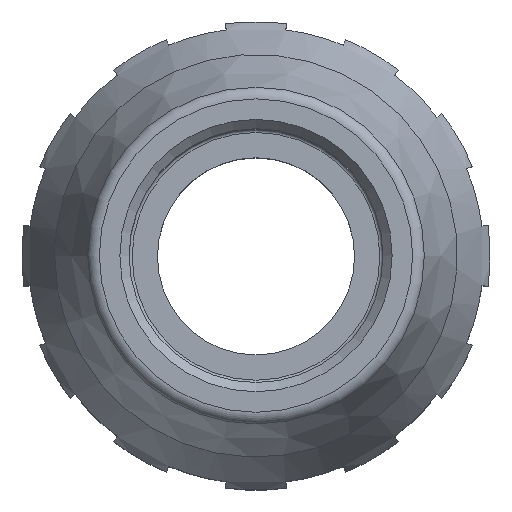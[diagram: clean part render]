
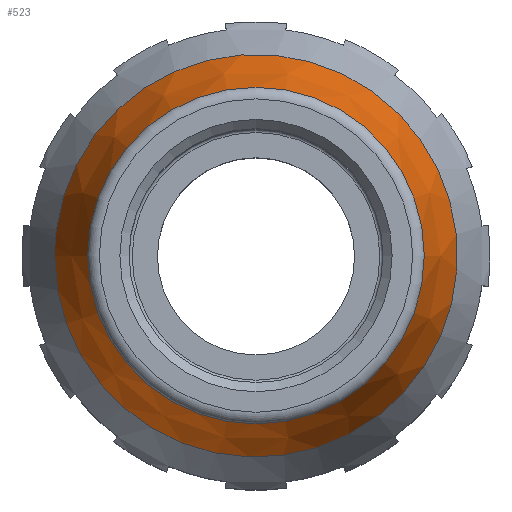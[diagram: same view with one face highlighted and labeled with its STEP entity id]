
A CAD part, top view. The second image highlights one B-rep face of the part: STEP entity #523.
In plain terms, the highlighted conical face has half-angle 19.587 degrees and reference radius 16.34 mm.
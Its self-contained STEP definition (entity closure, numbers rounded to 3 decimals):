
#523 = ADVANCED_FACE( '', ( #1126, #1127 ), #1128, .T. );
#1126 = FACE_OUTER_BOUND( '', #2581, .T. );
#1127 = FACE_BOUND( '', #2582, .T. );
#1128 = CONICAL_SURFACE( '', #2583, 16.34, 0.342 );
#2581 = EDGE_LOOP( '', ( #3962 ) );
#2582 = EDGE_LOOP( '', ( #3963 ) );
#2583 = AXIS2_PLACEMENT_3D( '', #3964, #3965, #3966 );
#3962 = ORIENTED_EDGE( '', *, *, #5407, .F. );
#3963 = ORIENTED_EDGE( '', *, *, #5408, .T. );
#3964 = CARTESIAN_POINT( '', ( 0., 0., 28.554 ) );
#3965 = DIRECTION( '', ( 0., 0., -1. ) );
#3966 = DIRECTION( '', ( -1., 0., 0. ) );
#5407 = EDGE_CURVE( '', #6367, #6367, #6368, .T. );
#5408 = EDGE_CURVE( '', #6369, #6369, #6370, .T. );
#6367 = VERTEX_POINT( '', #8264 );
#6368 = CIRCLE( '', #8265, 16.34 );
#6369 = VERTEX_POINT( '', #8266 );
#6370 = CIRCLE( '', #8267, 13.659 );
#8264 = CARTESIAN_POINT( '', ( -16.34, 0., 28.554 ) );
#8265 = AXIS2_PLACEMENT_3D( '', #9406, #9407, #9408 );
#8266 = CARTESIAN_POINT( '', ( -13.659, 0., 36.087 ) );
#8267 = AXIS2_PLACEMENT_3D( '', #9409, #9410, #9411 );
#9406 = CARTESIAN_POINT( '', ( 0., 0., 28.554 ) );
#9407 = DIRECTION( '', ( 0., 0., -1. ) );
#9408 = DIRECTION( '', ( -1., 0., 0. ) );
#9409 = CARTESIAN_POINT( '', ( 0., 0., 36.087 ) );
#9410 = DIRECTION( '', ( 0., 0., -1. ) );
#9411 = DIRECTION( '', ( -1., 0., 0. ) );
